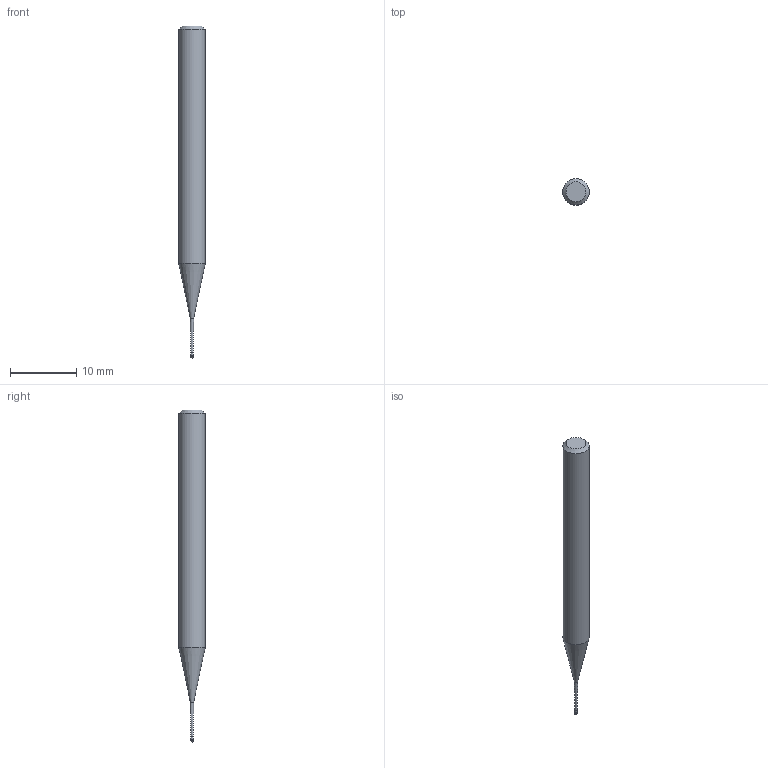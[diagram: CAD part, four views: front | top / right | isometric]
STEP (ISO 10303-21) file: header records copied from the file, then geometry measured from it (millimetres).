
FILE_DESCRIPTION((''),'2;1');
FILE_NAME('C:\Users\nsx150\AppData\Local\Temp\Mastercam 2021\SNAKH10GOD\TEMP.step','2021-10-21T13:30:56',(''),(''),'STEP Write','Mastercam 2021 ... CNC Software, Inc.','');
FILE_SCHEMA(('AUTOMOTIVE_DESIGN'));
Length unit declared in the file: millimetre
Products named in the file (1): None
Bounding box: 4 x 4 x 50 mm (x, y, z)
Volume: 488 mm3; surface area: 525.7 mm2
Topology: 2 solids, 2 shells, 10 faces, 16 edges, 9 vertices
Faces by surface type: plane 3, cylinder 3, cone 3, sphere 1
Full cylindrical faces by diameter (mm): 0.395 x1, 0.4 x1, 4 x1
Entity records: 232 total; most frequent: DIRECTION 40, CARTESIAN_POINT 28, AXIS2_PLACEMENT_3D 20, ORIENTED_EDGE 16, EDGE_LOOP 16, STYLED_ITEM 13, ADVANCED_FACE 10, FACE_BOUND 9
